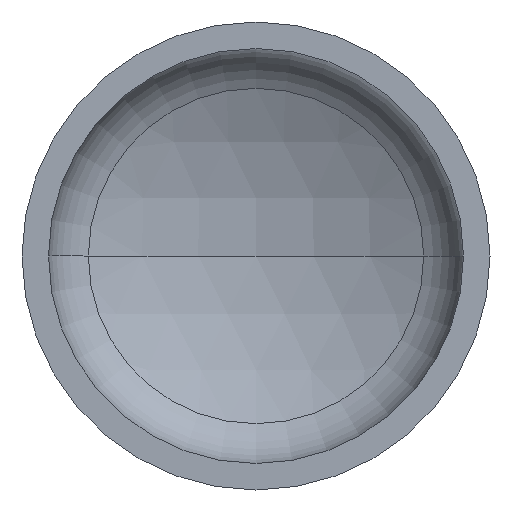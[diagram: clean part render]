
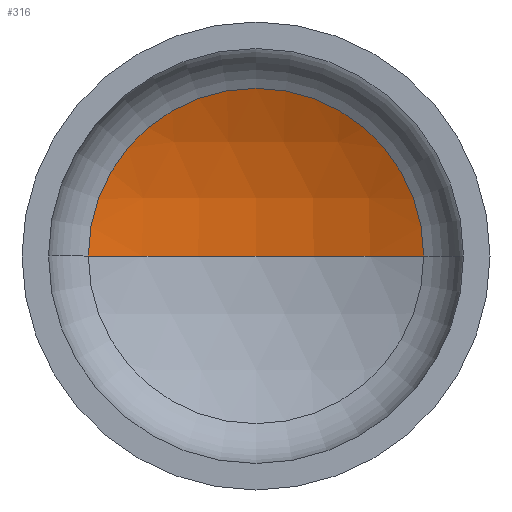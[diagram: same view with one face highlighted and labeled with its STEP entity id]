
A CAD part, front view. The second image highlights one B-rep face of the part: STEP entity #316.
In plain terms, the highlighted spherical face has radius 960 mm.
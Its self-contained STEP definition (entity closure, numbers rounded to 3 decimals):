
#17 = EDGE_LOOP ( 'NONE', ( #21, #235, #124 ) ) ;
#20 = AXIS2_PLACEMENT_3D ( 'NONE', #164, #273, #275 ) ;
#21 = ORIENTED_EDGE ( 'NONE', *, *, #349, .F. ) ;
#23 = AXIS2_PLACEMENT_3D ( 'NONE', #330, #189, #125 ) ;
#24 = AXIS2_PLACEMENT_3D ( 'NONE', #185, #88, #115 ) ;
#27 = AXIS2_PLACEMENT_3D ( 'NONE', #165, #176, #168 ) ;
#64 = VERTEX_POINT ( 'NONE', #294 ) ;
#88 = DIRECTION ( 'NONE',  ( 0., 0., -1. ) ) ;
#113 = VERTEX_POINT ( 'NONE', #215 ) ;
#115 = DIRECTION ( 'NONE',  ( -1., 0., 0. ) ) ;
#124 = ORIENTED_EDGE ( 'NONE', *, *, #329, .T. ) ;
#125 = DIRECTION ( 'NONE',  ( -1., 0., 0. ) ) ;
#150 = VERTEX_POINT ( 'NONE', #201 ) ;
#164 = CARTESIAN_POINT ( 'NONE',  ( 0., -572.976, 0. ) ) ;
#165 = CARTESIAN_POINT ( 'NONE',  ( 0., 285.42, 0. ) ) ;
#168 = DIRECTION ( 'NONE',  ( 1., 0., 0. ) ) ;
#176 = DIRECTION ( 'NONE',  ( 0., -1., 0. ) ) ;
#185 = CARTESIAN_POINT ( 'NONE',  ( 0., -572.976, 0. ) ) ;
#189 = DIRECTION ( 'NONE',  ( 0., 0., -1. ) ) ;
#201 = CARTESIAN_POINT ( 'NONE',  ( 0., 387.024, 0. ) ) ;
#215 = CARTESIAN_POINT ( 'NONE',  ( -429.832, 285.42, 0. ) ) ;
#229 = CIRCLE ( 'NONE', #20, 960. ) ;
#235 = ORIENTED_EDGE ( 'NONE', *, *, #338, .T. ) ;
#238 = CIRCLE ( 'NONE', #27, 429.832 ) ;
#247 = FACE_OUTER_BOUND ( 'NONE', #17, .T. ) ;
#273 = DIRECTION ( 'NONE',  ( 0., 0., 1. ) ) ;
#275 = DIRECTION ( 'NONE',  ( 1., 0., 0. ) ) ;
#291 = SPHERICAL_SURFACE ( 'NONE', #24, 960. ) ;
#294 = CARTESIAN_POINT ( 'NONE',  ( 429.832, 285.42, 0. ) ) ;
#316 = ADVANCED_FACE ( 'NONE', ( #247 ), #291, .F. ) ;
#329 = EDGE_CURVE ( 'NONE', #64, #113, #238, .T. ) ;
#330 = CARTESIAN_POINT ( 'NONE',  ( 0., -572.976, 0. ) ) ;
#338 = EDGE_CURVE ( 'NONE', #150, #64, #366, .T. ) ;
#349 = EDGE_CURVE ( 'NONE', #150, #113, #229, .T. ) ;
#366 = CIRCLE ( 'NONE', #23, 960. ) ;
